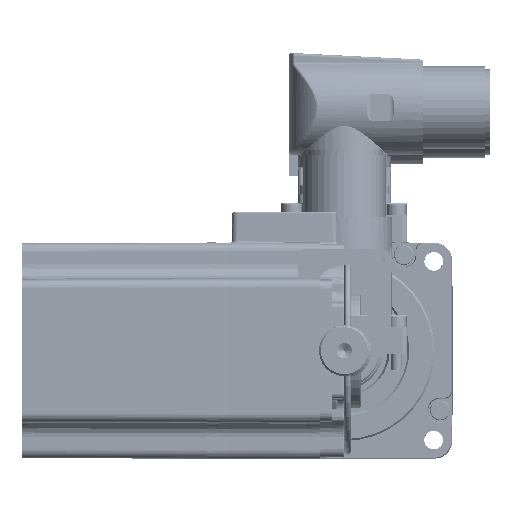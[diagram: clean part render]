
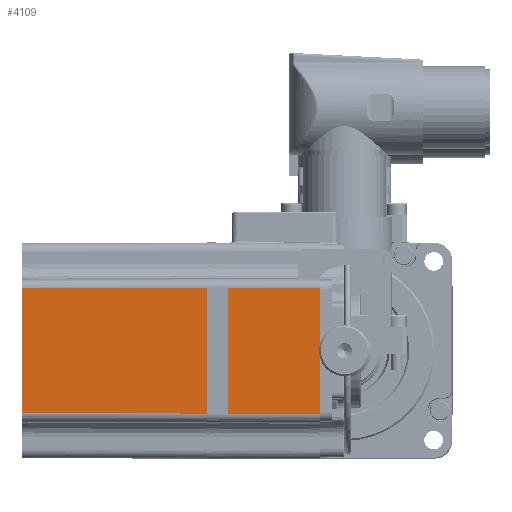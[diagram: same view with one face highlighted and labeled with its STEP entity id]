
A CAD part, front view. The second image highlights one B-rep face of the part: STEP entity #4109.
In plain terms, the highlighted planar face has unit normal (-0.003, -1, 0).
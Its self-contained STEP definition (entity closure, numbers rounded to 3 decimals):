
#4109 = ADVANCED_FACE( '', ( #8610 ), #8611, .T. );
#8610 = FACE_OUTER_BOUND( '', #16598, .T. );
#8611 = PLANE( '', #16599 );
#16598 = EDGE_LOOP( '', ( #28292, #28293, #28294, #28295 ) );
#16599 = AXIS2_PLACEMENT_3D( '', #28296, #28297, #28298 );
#28292 = ORIENTED_EDGE( '', *, *, #34749, .T. );
#28293 = ORIENTED_EDGE( '', *, *, #31876, .T. );
#28294 = ORIENTED_EDGE( '', *, *, #32322, .T. );
#28295 = ORIENTED_EDGE( '', *, *, #32729, .T. );
#28296 = CARTESIAN_POINT( '', ( -6., -30., 0. ) );
#28297 = DIRECTION( '', ( -0.003, -1., 0. ) );
#28298 = DIRECTION( '', ( 1., -0.003, 0. ) );
#31876 = EDGE_CURVE( '', #39147, #39145, #39148, .T. );
#32322 = EDGE_CURVE( '', #39145, #39845, #39846, .T. );
#32729 = EDGE_CURVE( '', #39845, #40460, #40462, .T. );
#34749 = EDGE_CURVE( '', #40460, #39147, #43072, .T. );
#39145 = VERTEX_POINT( '', #50979 );
#39147 = VERTEX_POINT( '', #50981 );
#39148 = LINE( '', #50982, #50983 );
#39845 = VERTEX_POINT( '', #52287 );
#39846 = LINE( '', #52288, #52289 );
#40460 = VERTEX_POINT( '', #53400 );
#40462 = LINE( '', #53402, #53403 );
#43072 = LINE( '', #58745, #58746 );
#50979 = CARTESIAN_POINT( '', ( -6.75, -29.998, 17.498 ) );
#50981 = CARTESIAN_POINT( '', ( -6.75, -29.998, -17.498 ) );
#50982 = CARTESIAN_POINT( '', ( -6.75, -29.998, 0. ) );
#50983 = VECTOR( '', #61637, 1000. );
#52287 = CARTESIAN_POINT( '', ( -89.25, -29.758, 17.258 ) );
#52288 = CARTESIAN_POINT( '', ( -89.993, -29.756, 17.256 ) );
#52289 = VECTOR( '', #62192, 1000. );
#53400 = CARTESIAN_POINT( '', ( -89.25, -29.758, -17.258 ) );
#53402 = CARTESIAN_POINT( '', ( -89.25, -29.758, 0. ) );
#53403 = VECTOR( '', #62709, 1000. );
#58745 = CARTESIAN_POINT( '', ( -5.993, -30., -17.5 ) );
#58746 = VECTOR( '', #64681, 1000. );
#61637 = DIRECTION( '', ( 0., 0., 1. ) );
#62192 = DIRECTION( '', ( -1., 0.003, -0.003 ) );
#62709 = DIRECTION( '', ( 0., 0., -1. ) );
#64681 = DIRECTION( '', ( 1., -0.003, -0.003 ) );
